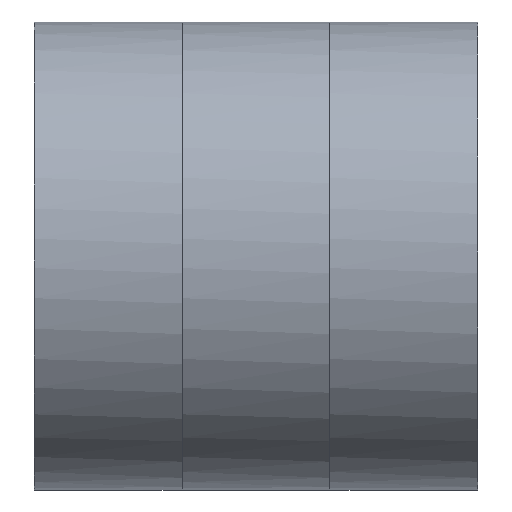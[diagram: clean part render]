
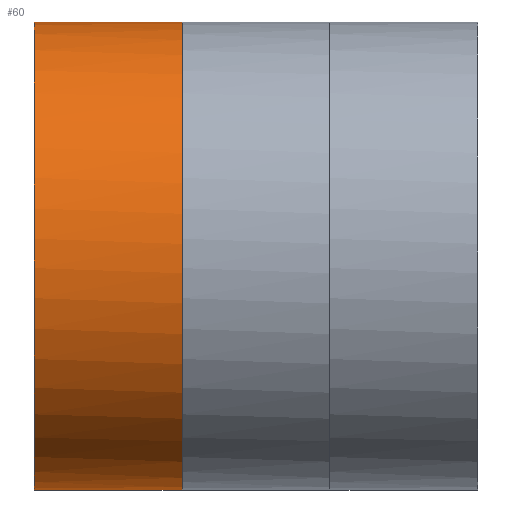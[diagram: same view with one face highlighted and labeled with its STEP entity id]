
A CAD part, front view. The second image highlights one B-rep face of the part: STEP entity #60.
In plain terms, the highlighted free-form (B-spline) face has degree [2, 1] with [9, 2] control points.
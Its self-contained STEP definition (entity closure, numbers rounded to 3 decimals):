
#60=ADVANCED_FACE('',(#78),#544,.T.);
#78=FACE_OUTER_BOUND('',#98,.T.);
#98=EDGE_LOOP('',(#132,#133,#134,#135));
#132=ORIENTED_EDGE('',*,*,#424,.F.);
#133=ORIENTED_EDGE('',*,*,#418,.F.);
#134=ORIENTED_EDGE('',*,*,#426,.F.);
#135=ORIENTED_EDGE('',*,*,#416,.F.);
#188=PCURVE('',#542,#260);
#190=PCURVE('',#542,#262);
#196=PCURVE('',#536,#268);
#201=PCURVE('',#537,#273);
#204=PCURVE('',#544,#276);
#205=PCURVE('',#544,#277);
#206=PCURVE('',#544,#278);
#207=PCURVE('',#544,#279);
#260=DEFINITIONAL_REPRESENTATION('',(#332),#1195);
#262=DEFINITIONAL_REPRESENTATION('',(#334),#1195);
#268=DEFINITIONAL_REPRESENTATION('',(#461),#1195);
#273=DEFINITIONAL_REPRESENTATION('',(#468),#1195);
#276=DEFINITIONAL_REPRESENTATION('',(#340),#1195);
#277=DEFINITIONAL_REPRESENTATION('',(#341),#1195);
#278=DEFINITIONAL_REPRESENTATION('',(#342),#1195);
#279=DEFINITIONAL_REPRESENTATION('',(#343),#1195);
#332=B_SPLINE_CURVE_WITH_KNOTS('',1,(#673,#674),.UNSPECIFIED.,.F.,.F.,(2,
2),(0.,6.),.UNSPECIFIED.);
#334=B_SPLINE_CURVE_WITH_KNOTS('',1,(#684,#685),.UNSPECIFIED.,.F.,.F.,(2,
2),(-6.,0.),.UNSPECIFIED.);
#340=B_SPLINE_CURVE_WITH_KNOTS('',1,(#775,#776),.UNSPECIFIED.,.F.,.F.,(2,
2),(-59.69,-29.845),.UNSPECIFIED.);
#341=B_SPLINE_CURVE_WITH_KNOTS('',1,(#777,#778),.UNSPECIFIED.,.F.,.F.,(2,
2),(-6.,0.),.UNSPECIFIED.);
#342=B_SPLINE_CURVE_WITH_KNOTS('',1,(#779,#780),.UNSPECIFIED.,.F.,.F.,(2,
2),(29.845,59.69),.UNSPECIFIED.);
#343=B_SPLINE_CURVE_WITH_KNOTS('',1,(#781,#782),.UNSPECIFIED.,.F.,.F.,(2,
2),(0.,6.),.UNSPECIFIED.);
#380=SURFACE_CURVE('',#452,(#188,#207),.PCURVE_S1.);
#382=SURFACE_CURVE('',#454,(#190,#205),.PCURVE_S1.);
#388=SURFACE_CURVE('',#460,(#196,#204),.PCURVE_S1.);
#390=SURFACE_CURVE('',#467,(#201,#206),.PCURVE_S1.);
#416=EDGE_CURVE('',#516,#517,#380,.T.);
#418=EDGE_CURVE('',#513,#512,#382,.T.);
#424=EDGE_CURVE('',#512,#516,#388,.T.);
#426=EDGE_CURVE('',#517,#513,#390,.T.);
#452=(
BOUNDED_CURVE()
B_SPLINE_CURVE(1,(#671,#672),.UNSPECIFIED.,.F.,.F.)
B_SPLINE_CURVE_WITH_KNOTS((2,2),(0.,6.),.UNSPECIFIED.)
CURVE()
GEOMETRIC_REPRESENTATION_ITEM()
RATIONAL_B_SPLINE_CURVE((1.,1.))
REPRESENTATION_ITEM('')
);
#454=(
BOUNDED_CURVE()
B_SPLINE_CURVE(1,(#682,#683),.UNSPECIFIED.,.F.,.F.)
B_SPLINE_CURVE_WITH_KNOTS((2,2),(-6.,0.),.UNSPECIFIED.)
CURVE()
GEOMETRIC_REPRESENTATION_ITEM()
RATIONAL_B_SPLINE_CURVE((1.,1.))
REPRESENTATION_ITEM('')
);
#460=(
BOUNDED_CURVE()
B_SPLINE_CURVE(2,(#715,#716,#717,#718,#719),.UNSPECIFIED.,.F.,.F.)
B_SPLINE_CURVE_WITH_KNOTS((3,2,3),(-59.69,-44.768,-29.845),
 .UNSPECIFIED.)
CURVE()
GEOMETRIC_REPRESENTATION_ITEM()
RATIONAL_B_SPLINE_CURVE((1.,0.707,1.,0.707,1.))
REPRESENTATION_ITEM('')
);
#461=(
BOUNDED_CURVE()
B_SPLINE_CURVE(2,(#720,#721,#722,#723,#724),.UNSPECIFIED.,.F.,.F.)
B_SPLINE_CURVE_WITH_KNOTS((3,2,3),(-59.69,-44.768,-29.845),
 .UNSPECIFIED.)
CURVE()
GEOMETRIC_REPRESENTATION_ITEM()
RATIONAL_B_SPLINE_CURVE((1.,0.707,1.,0.707,1.))
REPRESENTATION_ITEM('')
);
#467=(
BOUNDED_CURVE()
B_SPLINE_CURVE(2,(#750,#751,#752,#753,#754),.UNSPECIFIED.,.F.,.F.)
B_SPLINE_CURVE_WITH_KNOTS((3,2,3),(29.845,44.768,59.69),
 .UNSPECIFIED.)
CURVE()
GEOMETRIC_REPRESENTATION_ITEM()
RATIONAL_B_SPLINE_CURVE((1.,0.707,1.,0.707,1.))
REPRESENTATION_ITEM('')
);
#468=(
BOUNDED_CURVE()
B_SPLINE_CURVE(2,(#755,#756,#757,#758,#759),.UNSPECIFIED.,.F.,.F.)
B_SPLINE_CURVE_WITH_KNOTS((3,2,3),(29.845,44.768,59.69),
 .UNSPECIFIED.)
CURVE()
GEOMETRIC_REPRESENTATION_ITEM()
RATIONAL_B_SPLINE_CURVE((1.,0.707,1.,0.707,1.))
REPRESENTATION_ITEM('')
);
#512=VERTEX_POINT('',#663);
#513=VERTEX_POINT('',#664);
#516=VERTEX_POINT('',#667);
#517=VERTEX_POINT('',#668);
#536=PLANE('',#574);
#537=PLANE('',#575);
#542=(
BOUNDED_SURFACE()
B_SPLINE_SURFACE(2,1,((#589,#590),(#591,#592),(#593,#594),(#595,#596),(#597,
#598),(#599,#600),(#601,#602),(#603,#604),(#605,#606)),.UNSPECIFIED.,.T.,
 .F.,.F.)
B_SPLINE_SURFACE_WITH_KNOTS((3,2,2,2,3),(2,2),(0.,14.923,29.845,
44.768,59.69),(0.,6.),.UNSPECIFIED.)
GEOMETRIC_REPRESENTATION_ITEM()
RATIONAL_B_SPLINE_SURFACE(((1.,1.),(0.707,0.707),
(1.,1.),(0.707,0.707),(1.,1.),(0.707,
0.707),(1.,1.),(0.707,0.707),(1.,1.)))
REPRESENTATION_ITEM('')
SURFACE()
);
#544=(
BOUNDED_SURFACE()
B_SPLINE_SURFACE(2,1,((#627,#628),(#629,#630),(#631,#632),(#633,#634),(#635,
#636),(#637,#638),(#639,#640),(#641,#642),(#643,#644)),.UNSPECIFIED.,.T.,
 .F.,.F.)
B_SPLINE_SURFACE_WITH_KNOTS((3,2,2,2,3),(2,2),(0.,14.923,29.845,
44.768,59.69),(0.,6.),.UNSPECIFIED.)
GEOMETRIC_REPRESENTATION_ITEM()
RATIONAL_B_SPLINE_SURFACE(((1.,1.),(0.707,0.707),
(1.,1.),(0.707,0.707),(1.,1.),(0.707,
0.707),(1.,1.),(0.707,0.707),(1.,1.)))
REPRESENTATION_ITEM('')
SURFACE()
);
#574=AXIS2_PLACEMENT_3D('',#625,#582,$);
#575=AXIS2_PLACEMENT_3D('',#626,#583,$);
#582=DIRECTION('',(1.,0.,0.));
#583=DIRECTION('',(-1.,0.,0.));
#589=CARTESIAN_POINT('',(749.,-525.,39.5));
#590=CARTESIAN_POINT('',(755.,-525.,39.5));
#591=CARTESIAN_POINT('',(749.,-515.5,39.5));
#592=CARTESIAN_POINT('',(755.,-515.5,39.5));
#593=CARTESIAN_POINT('',(749.,-515.5,30.));
#594=CARTESIAN_POINT('',(755.,-515.5,30.));
#595=CARTESIAN_POINT('',(749.,-515.5,20.5));
#596=CARTESIAN_POINT('',(755.,-515.5,20.5));
#597=CARTESIAN_POINT('',(749.,-525.,20.5));
#598=CARTESIAN_POINT('',(755.,-525.,20.5));
#599=CARTESIAN_POINT('',(749.,-534.5,20.5));
#600=CARTESIAN_POINT('',(755.,-534.5,20.5));
#601=CARTESIAN_POINT('',(749.,-534.5,30.));
#602=CARTESIAN_POINT('',(755.,-534.5,30.));
#603=CARTESIAN_POINT('',(749.,-534.5,39.5));
#604=CARTESIAN_POINT('',(755.,-534.5,39.5));
#605=CARTESIAN_POINT('',(749.,-525.,39.5));
#606=CARTESIAN_POINT('',(755.,-525.,39.5));
#625=CARTESIAN_POINT('',(749.,-536.875,18.125));
#626=CARTESIAN_POINT('',(755.,-536.875,18.125));
#627=CARTESIAN_POINT('',(749.,-525.,39.5));
#628=CARTESIAN_POINT('',(755.,-525.,39.5));
#629=CARTESIAN_POINT('',(749.,-515.5,39.5));
#630=CARTESIAN_POINT('',(755.,-515.5,39.5));
#631=CARTESIAN_POINT('',(749.,-515.5,30.));
#632=CARTESIAN_POINT('',(755.,-515.5,30.));
#633=CARTESIAN_POINT('',(749.,-515.5,20.5));
#634=CARTESIAN_POINT('',(755.,-515.5,20.5));
#635=CARTESIAN_POINT('',(749.,-525.,20.5));
#636=CARTESIAN_POINT('',(755.,-525.,20.5));
#637=CARTESIAN_POINT('',(749.,-534.5,20.5));
#638=CARTESIAN_POINT('',(755.,-534.5,20.5));
#639=CARTESIAN_POINT('',(749.,-534.5,30.));
#640=CARTESIAN_POINT('',(755.,-534.5,30.));
#641=CARTESIAN_POINT('',(749.,-534.5,39.5));
#642=CARTESIAN_POINT('',(755.,-534.5,39.5));
#643=CARTESIAN_POINT('',(749.,-525.,39.5));
#644=CARTESIAN_POINT('',(755.,-525.,39.5));
#663=CARTESIAN_POINT('',(749.,-525.,39.5));
#664=CARTESIAN_POINT('',(755.,-525.,39.5));
#667=CARTESIAN_POINT('',(749.,-525.,20.5));
#668=CARTESIAN_POINT('',(755.,-525.,20.5));
#671=CARTESIAN_POINT('',(749.,-525.,20.5));
#672=CARTESIAN_POINT('',(755.,-525.,20.5));
#673=CARTESIAN_POINT('',(29.845,0.));
#674=CARTESIAN_POINT('',(29.845,6.));
#682=CARTESIAN_POINT('',(755.,-525.,39.5));
#683=CARTESIAN_POINT('',(749.,-525.,39.5));
#684=CARTESIAN_POINT('',(0.,6.));
#685=CARTESIAN_POINT('',(0.,0.));
#715=CARTESIAN_POINT('',(749.,-525.,39.5));
#716=CARTESIAN_POINT('',(749.,-534.5,39.5));
#717=CARTESIAN_POINT('',(749.,-534.5,30.));
#718=CARTESIAN_POINT('',(749.,-534.5,20.5));
#719=CARTESIAN_POINT('',(749.,-525.,20.5));
#720=CARTESIAN_POINT('',(0.,0.));
#721=CARTESIAN_POINT('',(-9.5,0.));
#722=CARTESIAN_POINT('',(-9.5,-9.5));
#723=CARTESIAN_POINT('',(-9.5,-19.));
#724=CARTESIAN_POINT('',(0.,-19.));
#750=CARTESIAN_POINT('',(755.,-525.,20.5));
#751=CARTESIAN_POINT('',(755.,-534.5,20.5));
#752=CARTESIAN_POINT('',(755.,-534.5,30.));
#753=CARTESIAN_POINT('',(755.,-534.5,39.5));
#754=CARTESIAN_POINT('',(755.,-525.,39.5));
#755=CARTESIAN_POINT('',(-19.,0.));
#756=CARTESIAN_POINT('',(-19.,-9.5));
#757=CARTESIAN_POINT('',(-9.5,-9.5));
#758=CARTESIAN_POINT('',(0.,-9.5));
#759=CARTESIAN_POINT('',(0.,0.));
#775=CARTESIAN_POINT('',(59.69,0.));
#776=CARTESIAN_POINT('',(29.845,0.));
#777=CARTESIAN_POINT('',(59.69,6.));
#778=CARTESIAN_POINT('',(59.69,0.));
#779=CARTESIAN_POINT('',(29.845,6.));
#780=CARTESIAN_POINT('',(59.69,6.));
#781=CARTESIAN_POINT('',(29.845,0.));
#782=CARTESIAN_POINT('',(29.845,6.));
#1195=(
GEOMETRIC_REPRESENTATION_CONTEXT(2)
PARAMETRIC_REPRESENTATION_CONTEXT()
REPRESENTATION_CONTEXT('pspace','')
);
